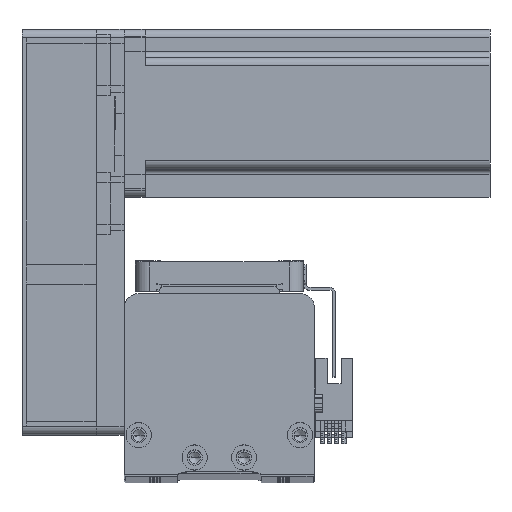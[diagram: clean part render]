
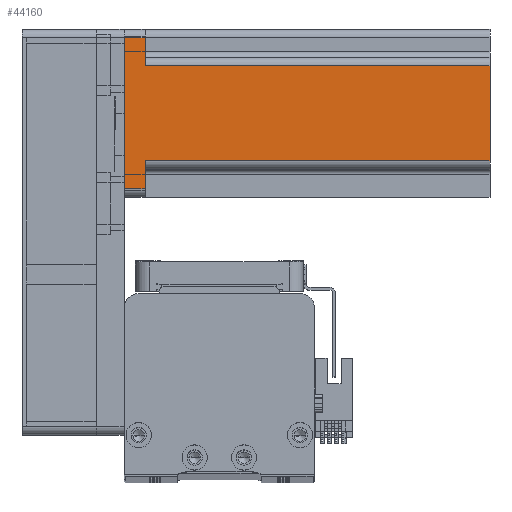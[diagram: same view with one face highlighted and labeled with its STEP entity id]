
A CAD part, top view. The second image highlights one B-rep face of the part: STEP entity #44160.
In plain terms, the highlighted planar face has unit normal (0, 0, 1) as drawn and (0, 1, 0) by its records, which use the part's own axes.
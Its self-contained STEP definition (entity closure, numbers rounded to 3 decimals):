
#606 = EDGE_CURVE ( 'NONE', #22609, #44386, #2162, .T. ) ;
#951 = CARTESIAN_POINT ( 'NONE',  ( 27., 30., 7.5 ) ) ;
#1052 = LINE ( 'NONE', #18317, #49942 ) ;
#1736 = AXIS2_PLACEMENT_3D ( 'NONE', #21846, #28447, #16117 ) ;
#1994 = ORIENTED_EDGE ( 'NONE', *, *, #37335, .T. ) ;
#2162 = LINE ( 'NONE', #15457, #32191 ) ;
#3238 = CARTESIAN_POINT ( 'NONE',  ( -27., 30., 7.5 ) ) ;
#4537 = ORIENTED_EDGE ( 'NONE', *, *, #45642, .T. ) ;
#6306 = VERTEX_POINT ( 'NONE', #951 ) ;
#6661 = VERTEX_POINT ( 'NONE', #3238 ) ;
#7888 = VECTOR ( 'NONE', #14659, 1000. ) ;
#9125 = LINE ( 'NONE', #14771, #7888 ) ;
#10907 = CARTESIAN_POINT ( 'NONE',  ( -27., 30., 0. ) ) ;
#11347 = DIRECTION ( 'NONE',  ( -1., 0., 0. ) ) ;
#11797 = LINE ( 'NONE', #39415, #41326 ) ;
#12563 = LINE ( 'NONE', #39739, #21782 ) ;
#12868 = DIRECTION ( 'NONE',  ( -1., 0., 0. ) ) ;
#13412 = VECTOR ( 'NONE', #34379, 1000. ) ;
#14659 = DIRECTION ( 'NONE',  ( 0., 0., 1. ) ) ;
#14771 = CARTESIAN_POINT ( 'NONE',  ( -17., 30., 130.7 ) ) ;
#15405 = DIRECTION ( 'NONE',  ( -1., 0., 0. ) ) ;
#15457 = CARTESIAN_POINT ( 'NONE',  ( 30., 30., 130.7 ) ) ;
#16117 = DIRECTION ( 'NONE',  ( 1., 0., 0. ) ) ;
#17457 = ORIENTED_EDGE ( 'NONE', *, *, #26312, .T. ) ;
#18273 = DIRECTION ( 'NONE',  ( 0., 0., -1. ) ) ;
#18317 = CARTESIAN_POINT ( 'NONE',  ( 27., 30., 130.7 ) ) ;
#19021 = PLANE ( 'NONE',  #1736 ) ;
#20263 = VECTOR ( 'NONE', #36440, 1000. ) ;
#21659 = CARTESIAN_POINT ( 'NONE',  ( -17., 30., 7.5 ) ) ;
#21782 = VECTOR ( 'NONE', #39703, 1000. ) ;
#21846 = CARTESIAN_POINT ( 'NONE',  ( 30., 30., 130.7 ) ) ;
#22609 = VERTEX_POINT ( 'NONE', #26478 ) ;
#22901 = ORIENTED_EDGE ( 'NONE', *, *, #29098, .T. ) ;
#23871 = LINE ( 'NONE', #38192, #13412 ) ;
#26312 = EDGE_CURVE ( 'NONE', #6661, #41062, #23871, .T. ) ;
#26478 = CARTESIAN_POINT ( 'NONE',  ( 17., 30., 130.7 ) ) ;
#26503 = VERTEX_POINT ( 'NONE', #40234 ) ;
#28045 = FACE_OUTER_BOUND ( 'NONE', #48929, .T. ) ;
#28447 = DIRECTION ( 'NONE',  ( 0., -1., 0. ) ) ;
#29098 = EDGE_CURVE ( 'NONE', #26503, #45910, #11797, .T. ) ;
#29198 = ORIENTED_EDGE ( 'NONE', *, *, #34687, .T. ) ;
#30574 = LINE ( 'NONE', #37706, #20263 ) ;
#32191 = VECTOR ( 'NONE', #15405, 1000. ) ;
#33108 = EDGE_CURVE ( 'NONE', #41062, #44386, #9125, .T. ) ;
#34379 = DIRECTION ( 'NONE',  ( 1., 0., 0. ) ) ;
#34687 = EDGE_CURVE ( 'NONE', #45910, #6661, #12563, .T. ) ;
#35316 = CARTESIAN_POINT ( 'NONE',  ( 17., 30., 7.5 ) ) ;
#35957 = ORIENTED_EDGE ( 'NONE', *, *, #41467, .F. ) ;
#36440 = DIRECTION ( 'NONE',  ( 0., 0., -1. ) ) ;
#37335 = EDGE_CURVE ( 'NONE', #22609, #37434, #30574, .T. ) ;
#37434 = VERTEX_POINT ( 'NONE', #35316 ) ;
#37706 = CARTESIAN_POINT ( 'NONE',  ( 17., 30., 130.7 ) ) ;
#38192 = CARTESIAN_POINT ( 'NONE',  ( -20., 30., 7.5 ) ) ;
#38583 = LINE ( 'NONE', #42127, #48496 ) ;
#39415 = CARTESIAN_POINT ( 'NONE',  ( 30., 30., 0. ) ) ;
#39703 = DIRECTION ( 'NONE',  ( 0., 0., 1. ) ) ;
#39739 = CARTESIAN_POINT ( 'NONE',  ( -27., 30., 130.7 ) ) ;
#40234 = CARTESIAN_POINT ( 'NONE',  ( 27., 30., 0. ) ) ;
#40749 = ORIENTED_EDGE ( 'NONE', *, *, #606, .F. ) ;
#41062 = VERTEX_POINT ( 'NONE', #21659 ) ;
#41326 = VECTOR ( 'NONE', #12868, 1000. ) ;
#41467 = EDGE_CURVE ( 'NONE', #6306, #37434, #38583, .T. ) ;
#42127 = CARTESIAN_POINT ( 'NONE',  ( 20., 30., 7.5 ) ) ;
#44160 = ADVANCED_FACE ( 'NONE', ( #28045 ), #19021, .F. ) ;
#44386 = VERTEX_POINT ( 'NONE', #46609 ) ;
#45642 = EDGE_CURVE ( 'NONE', #6306, #26503, #1052, .T. ) ;
#45910 = VERTEX_POINT ( 'NONE', #10907 ) ;
#46609 = CARTESIAN_POINT ( 'NONE',  ( -17., 30., 130.7 ) ) ;
#48121 = ORIENTED_EDGE ( 'NONE', *, *, #33108, .T. ) ;
#48496 = VECTOR ( 'NONE', #11347, 1000. ) ;
#48929 = EDGE_LOOP ( 'NONE', ( #17457, #48121, #40749, #1994, #35957, #4537, #22901, #29198 ) ) ;
#49942 = VECTOR ( 'NONE', #18273, 1000. ) ;
